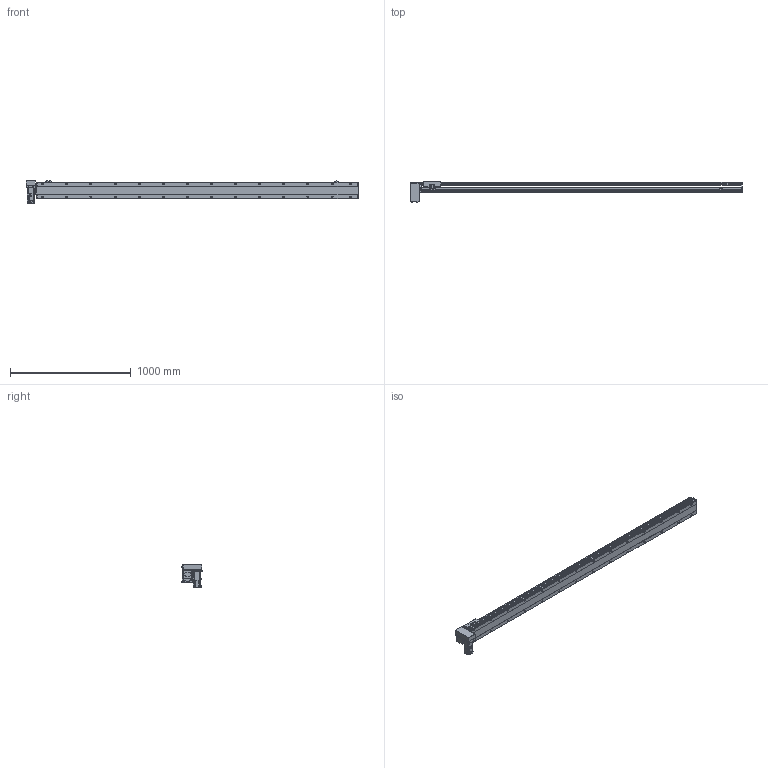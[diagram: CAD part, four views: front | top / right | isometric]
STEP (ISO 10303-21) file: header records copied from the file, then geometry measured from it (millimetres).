
FILE_DESCRIPTION( ( 'STEP AP214' ), '1' );
FILE_NAME( 'x:/temp/worker_6/temp/exporttempdir_5396_186_uSScp/format_0/PBS140S-P40-S2400-RD-T40-C1-N(0).stp', '2022-06-09T00:47:53', ( 'License CC BY-ND 4.0' ), ( 'CADENAS' ), ' ', 'PARTsolutions', ' ' );
FILE_SCHEMA( ( 'AUTOMOTIVE_DESIGN { 1 0 10303 214 1 1 1 1 }' ) );
Length unit declared in the file: millimetre
Products named in the file (7): PBS140S-P40-S2400-RD-T40-C1-N(0); _PBS140S-S2400()_body; _PBS140ST-RD_motors; _T40-p1; _PBS140S_sliser; _PBS140S_plant; _PBS140S_sensor
Assembly tree (8 placements, depth 2):
  PBS140S-P40-S2400-RD-T40-C1-N(0)
    _PBS140S-S2400()_body
    _PBS140ST-RD_motors
    _T40-p1
    _PBS140S_sliser
    _PBS140S_plant
    _PBS140S_sensor  x3
Bounding box: 2754 x 172.5 x 189.7 mm (x, y, z)
Volume: 13415032.6 mm3; surface area: 2262175.5 mm2
Topology: 8 solids, 8 shells, 1195 faces, 3151 edges, 2061 vertices
Faces by surface type: plane 738, cylinder 393, cone 54, sphere 8, torus 2
Full cylindrical faces by diameter (mm): 3.242 x4, 4 x2, 4.134 x4, 4.4 x8, 4.5 x2, 4.8 x4, 4.917 x36, 5.5 x7, 6 x2, 7 x30, 7.5 x8, 8 x12, 8.5 x4, 10.5 x28, 14 x1, 30 x2, 50 x2
Entity records: 44188 total; most frequent: CARTESIAN_POINT 7414, DIRECTION 5768, ORIENTED_EDGE 5422, EDGE_CURVE 2711, AXIS2_PLACEMENT_3D 2039, VERTEX_POINT 1897, LINE 1690, VECTOR 1690
